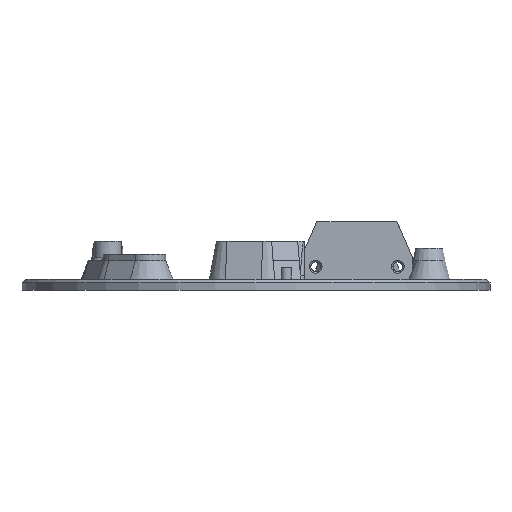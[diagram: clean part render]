
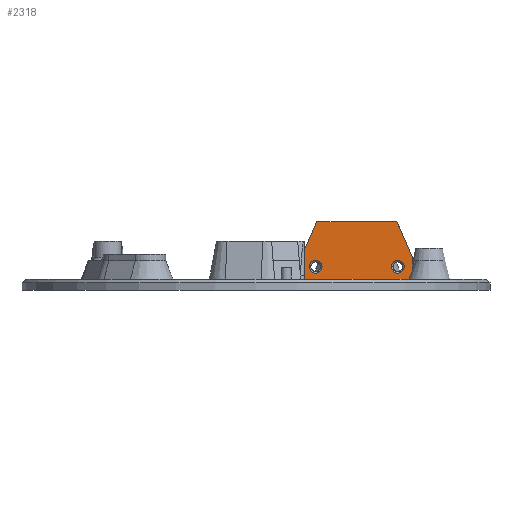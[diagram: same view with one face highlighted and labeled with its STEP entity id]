
A CAD part, left-side view. The second image highlights one B-rep face of the part: STEP entity #2318.
In plain terms, the highlighted planar face has unit normal (-1, 0, 0).
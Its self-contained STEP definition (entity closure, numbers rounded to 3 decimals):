
#30=FACE_BOUND('',#662,.T.);
#31=FACE_BOUND('',#663,.T.);
#134=LINE('',#3846,#287);
#141=LINE('',#3869,#294);
#158=LINE('',#4001,#311);
#159=LINE('',#4003,#312);
#160=LINE('',#4005,#313);
#161=LINE('',#4006,#314);
#162=LINE('',#4008,#315);
#163=LINE('',#4010,#316);
#164=LINE('',#4011,#317);
#165=LINE('',#4012,#318);
#287=VECTOR('',#2903,10.);
#294=VECTOR('',#2920,10.);
#311=VECTOR('',#2999,10.);
#312=VECTOR('',#3000,10.);
#313=VECTOR('',#3001,10.);
#314=VECTOR('',#3002,10.);
#315=VECTOR('',#3003,10.);
#316=VECTOR('',#3004,10.);
#317=VECTOR('',#3005,10.);
#318=VECTOR('',#3006,10.);
#508=FACE_OUTER_BOUND('',#661,.T.);
#661=EDGE_LOOP('',(#1707,#1708,#1709,#1710,#1711,#1712,#1713,#1714,#1715,
#1716));
#662=EDGE_LOOP('',(#1717));
#663=EDGE_LOOP('',(#1718));
#872=CIRCLE('',#2549,1.75);
#875=CIRCLE('',#2553,1.75);
#1023=VERTEX_POINT('',#3843);
#1024=VERTEX_POINT('',#3845);
#1034=VERTEX_POINT('',#3866);
#1035=VERTEX_POINT('',#3868);
#1075=VERTEX_POINT('',#3991);
#1078=VERTEX_POINT('',#3999);
#1079=VERTEX_POINT('',#4000);
#1080=VERTEX_POINT('',#4002);
#1081=VERTEX_POINT('',#4004);
#1082=VERTEX_POINT('',#4007);
#1083=VERTEX_POINT('',#4009);
#1084=VERTEX_POINT('',#4013);
#1271=EDGE_CURVE('',#1023,#1024,#134,.T.);
#1283=EDGE_CURVE('',#1034,#1035,#141,.T.);
#1325=EDGE_CURVE('',#1075,#1075,#872,.T.);
#1329=EDGE_CURVE('',#1078,#1079,#158,.T.);
#1330=EDGE_CURVE('',#1080,#1078,#159,.T.);
#1331=EDGE_CURVE('',#1081,#1080,#160,.T.);
#1332=EDGE_CURVE('',#1024,#1081,#161,.T.);
#1333=EDGE_CURVE('',#1023,#1082,#162,.T.);
#1334=EDGE_CURVE('',#1083,#1082,#163,.T.);
#1335=EDGE_CURVE('',#1035,#1083,#164,.T.);
#1336=EDGE_CURVE('',#1034,#1079,#165,.T.);
#1337=EDGE_CURVE('',#1084,#1084,#875,.T.);
#1707=ORIENTED_EDGE('',*,*,#1329,.F.);
#1708=ORIENTED_EDGE('',*,*,#1330,.F.);
#1709=ORIENTED_EDGE('',*,*,#1331,.F.);
#1710=ORIENTED_EDGE('',*,*,#1332,.F.);
#1711=ORIENTED_EDGE('',*,*,#1271,.F.);
#1712=ORIENTED_EDGE('',*,*,#1333,.T.);
#1713=ORIENTED_EDGE('',*,*,#1334,.F.);
#1714=ORIENTED_EDGE('',*,*,#1335,.F.);
#1715=ORIENTED_EDGE('',*,*,#1283,.F.);
#1716=ORIENTED_EDGE('',*,*,#1336,.T.);
#1717=ORIENTED_EDGE('',*,*,#1337,.F.);
#1718=ORIENTED_EDGE('',*,*,#1325,.F.);
#2244=PLANE('',#2552);
#2318=ADVANCED_FACE('',(#508,#30,#31),#2244,.F.);
#2549=AXIS2_PLACEMENT_3D('',#3992,#2990,#2991);
#2552=AXIS2_PLACEMENT_3D('',#3998,#2997,#2998);
#2553=AXIS2_PLACEMENT_3D('',#4014,#3007,#3008);
#2903=DIRECTION('',(0.,1.,0.));
#2920=DIRECTION('',(0.,1.,0.));
#2990=DIRECTION('center_axis',(-1.,0.,0.));
#2991=DIRECTION('ref_axis',(0.,0.,-1.));
#2997=DIRECTION('center_axis',(1.,0.,0.));
#2998=DIRECTION('ref_axis',(0.,-1.,0.));
#2999=DIRECTION('',(0.,-0.403,-0.915));
#3000=DIRECTION('',(0.,-1.,0.));
#3001=DIRECTION('',(0.,-0.403,0.915));
#3002=DIRECTION('',(0.,0.,1.));
#3003=DIRECTION('',(0.,0.,-1.));
#3004=DIRECTION('',(0.,1.,0.));
#3005=DIRECTION('',(0.,0.,-1.));
#3006=DIRECTION('',(0.,0.,1.));
#3007=DIRECTION('center_axis',(-1.,0.,0.));
#3008=DIRECTION('ref_axis',(0.,0.,-1.));
#3843=CARTESIAN_POINT('',(1.,-16.3,3.));
#3845=CARTESIAN_POINT('',(1.,-12.5,3.));
#3846=CARTESIAN_POINT('',(1.,-6.25,3.));
#3866=CARTESIAN_POINT('',(1.,-43.5,3.));
#3868=CARTESIAN_POINT('',(1.,-39.7,3.));
#3869=CARTESIAN_POINT('',(1.,-6.25,3.));
#3991=CARTESIAN_POINT('',(1.,-16.6,8.25));
#3992=CARTESIAN_POINT('Origin',(1.,-16.6,6.5));
#3998=CARTESIAN_POINT('Origin',(1.,-16.3,3.));
#3999=CARTESIAN_POINT('',(1.,-39.1,19.));
#4000=CARTESIAN_POINT('',(1.,-43.5,9.));
#4001=CARTESIAN_POINT('',(1.,-41.3,14.));
#4002=CARTESIAN_POINT('',(1.,-16.9,19.));
#4003=CARTESIAN_POINT('',(1.,-12.5,19.));
#4004=CARTESIAN_POINT('',(1.,-12.5,9.));
#4005=CARTESIAN_POINT('',(1.,-12.802,9.687));
#4006=CARTESIAN_POINT('',(1.,-12.5,3.));
#4007=CARTESIAN_POINT('',(1.,-16.3,0.));
#4008=CARTESIAN_POINT('',(1.,-16.3,3.));
#4009=CARTESIAN_POINT('',(1.,-39.7,0.));
#4010=CARTESIAN_POINT('',(1.,-8.15,0.));
#4011=CARTESIAN_POINT('',(1.,-39.7,3.));
#4012=CARTESIAN_POINT('',(1.,-43.5,3.));
#4013=CARTESIAN_POINT('',(1.,-39.4,8.25));
#4014=CARTESIAN_POINT('Origin',(1.,-39.4,6.5));
